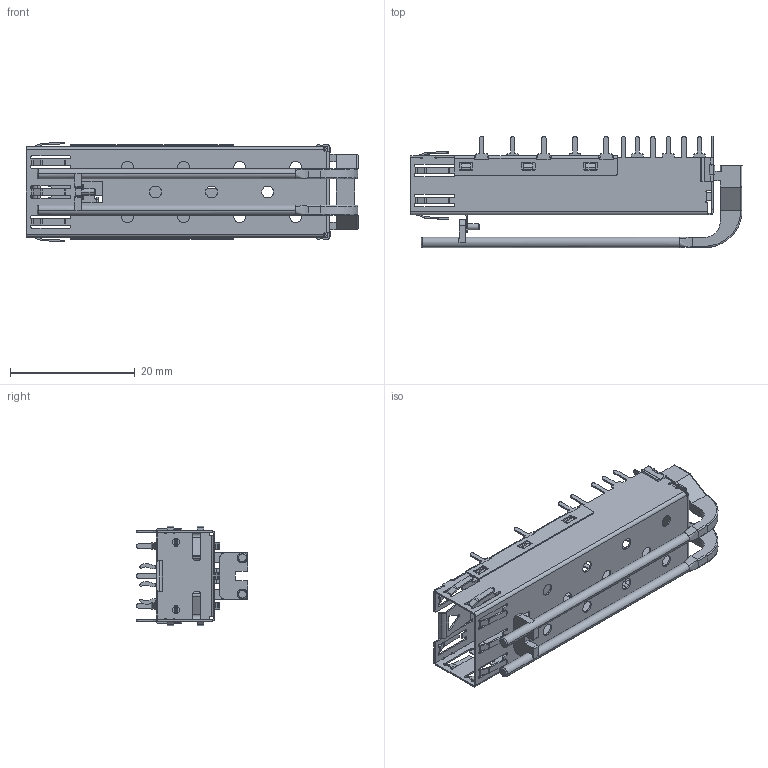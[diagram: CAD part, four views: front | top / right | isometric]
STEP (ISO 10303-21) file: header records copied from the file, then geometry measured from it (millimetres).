
FILE_DESCRIPTION (( 'STEP AP214' ), '1' );
FILE_NAME ('SA10-2010220000-0000-X.STEP', '2021-06-11T01:48:43', ( '' ), ( '' ), 'SwSTEP 2.0', 'SolidWorks 2012', '' );
FILE_SCHEMA (( 'AUTOMOTIVE_DESIGN' ));
Length unit declared in the file: millimetre
Products named in the file (1): SA10-2010220000-0000-X
Bounding box: 53.32 x 17.85 x 16 mm (x, y, z)
Volume: 1001.6 mm3; surface area: 5684.4 mm2
Topology: 3 solids, 3 shells, 1364 faces, 3679 edges, 2316 vertices
Faces by surface type: plane 777, cylinder 557, torus 16, bspline 12, cone 2
Entity records: 58007 total; most frequent: CARTESIAN_POINT 7970, DIRECTION 7395, ORIENTED_EDGE 7358, EDGE_CURVE 3679, VECTOR 2481, LINE 2481, AXIS2_PLACEMENT_3D 2457, VERTEX_POINT 2316
